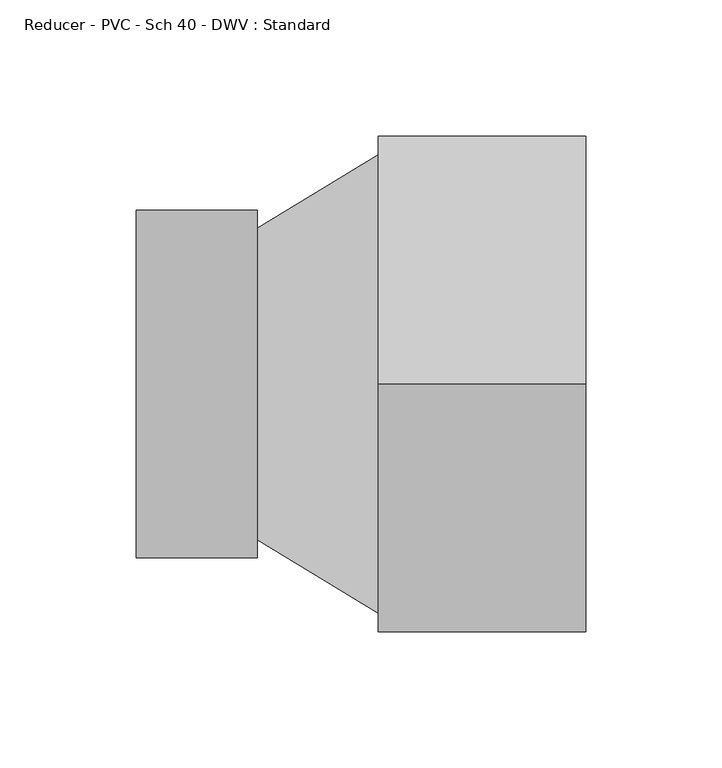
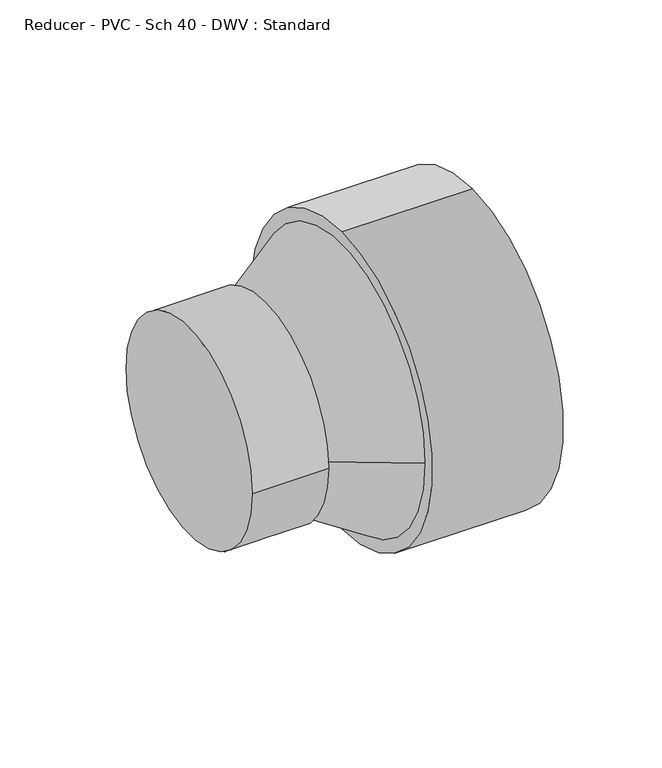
"""IFC4 building model written with IfcOpenShell, lengths in millimetres: pipe fitting geometry, Reducer - PVC - Sch 40 - DWV : Standard."""

import ifcopenshell
import ifcopenshell.guid

model = None  # the IFC model being written
_history = None  # IfcOwnerHistory: only IFC2X3 demands one
_inside = {}  # id of a spatial element -> (the spatial element, [elements in it])
_under = {}  # id of a project, library or spatial element -> (it, [spatial elements below it])
_declared = {}  # id of a project -> (the project, [libraries it declares])
_typed = {}  # id of a type object -> (the type object, [elements of that type])
_made_of = {}  # id of a material, layer set ... -> (it, [elements and type objects made of it])


def new_model(schema):
    """Start an empty IFC model of exactly this schema.

    Asked for "IFC4X3", IfcOpenShell would pick the latest addendum, in which some entities
    have other attributes; the version numbers below select the first issue.
    IFC2X3 requires an IfcOwnerHistory on every rooted entity: one is made here for all.
    """
    global model, _history
    if schema == "IFC4X3":
        model = ifcopenshell.file(schema_version=(4, 3, 0, 0))
    else:
        model = ifcopenshell.file(schema=schema)
    _inside.clear()
    _under.clear()
    _declared.clear()
    _typed.clear()
    _made_of.clear()
    _history = None
    if model.schema == "IFC2X3":
        org = make("IfcOrganization", Name="unknown")
        user = make(
            "IfcPersonAndOrganization",
            ThePerson=make("IfcPerson", FamilyName="unknown"),
            TheOrganization=org,
        )
        app = make(
            "IfcApplication",
            ApplicationDeveloper=org,
            Version="unknown",
            ApplicationFullName="unknown",
            ApplicationIdentifier="unknown",
        )
        _history = make(
            "IfcOwnerHistory",
            OwningUser=user,
            OwningApplication=app,
            ChangeAction="ADDED",
            CreationDate=0,
        )
    return model


def make(cls, **values):
    """One entity of the class cls with the attributes given. An attribute that is None is left unset."""
    return model.create_entity(
        cls, **{name: value for name, value in values.items() if value is not None}
    )


def rooted(cls, **values):
    """An entity with a GlobalId (a new one), such as an element, a storey or a relation."""
    return make(cls, GlobalId=ifcopenshell.guid.new(), OwnerHistory=_history, **values)


def si_unit(unit_type, name, prefix=None):
    """IfcSIUnit, for example si_unit("LENGTHUNIT", "METRE", prefix="MILLI")."""
    return make("IfcSIUnit", UnitType=unit_type, Prefix=prefix, Name=name)


def assignment(units):
    """IfcUnitAssignment: the units of a project."""
    return None if units is None else make("IfcUnitAssignment", Units=units)


def point(xyz):
    """IfcCartesianPoint."""
    return None if xyz is None else make("IfcCartesianPoint", Coordinates=xyz)


def direction(xyz):
    """IfcDirection."""
    return None if xyz is None else make("IfcDirection", DirectionRatios=xyz)


def frame(location, z_axis=None, x_axis=None):
    """IfcAxis2Placement3D, a coordinate frame: its origin and axes. An axis left out is left unset."""
    return make(
        "IfcAxis2Placement3D",
        Location=point(location),
        Axis=direction(z_axis),
        RefDirection=direction(x_axis),
    )


def origin():
    """The frame at (0, 0, 0) with its axes left unset."""
    return frame((0.0, 0.0, 0.0))


def place(relative_to, where):
    """IfcLocalPlacement: puts the frame where relative to a parent placement (None: the world)."""
    return make(
        "IfcLocalPlacement", PlacementRelTo=relative_to, RelativePlacement=where
    )


def context(
    kind, dimensions, precision=None, world=None, true_north=None, identifier=None
):
    """IfcGeometricRepresentationContext, for example the 3D "Model" context."""
    return make(
        "IfcGeometricRepresentationContext",
        ContextIdentifier=identifier,
        ContextType=kind,
        CoordinateSpaceDimension=dimensions,
        Precision=precision,
        WorldCoordinateSystem=world,
        TrueNorth=true_north,
    )


def project(units=None, contexts=None):
    """IfcProject with its units and contexts."""
    return rooted(
        "IfcProject",
        Name="project",
        RepresentationContexts=contexts,
        UnitsInContext=assignment(units),
    )


def spatial(cls, under=None, at=None, **own):
    """A site, building, storey or space (cls), placed at a placement, below another one or the project."""
    s = rooted(cls, ObjectPlacement=at, **own)
    if under is not None:
        _under.setdefault(under.id(), (under, []))[1].append(s)
    return s


def polyline(points):
    """IfcPolyline through the points."""
    return make("IfcPolyline", Points=[point(p) for p in points])


def circle_curve(where, radius):
    """IfcCircle in the frame where."""
    return make("IfcCircle", Position=where, Radius=radius)


def shape(context_of_items, identifier, shape_type, items):
    """IfcShapeRepresentation: the items that make up one representation, for example the "Body"."""
    return make(
        "IfcShapeRepresentation",
        ContextOfItems=context_of_items,
        RepresentationIdentifier=identifier,
        RepresentationType=shape_type,
        Items=items,
    )


def source(mapping_origin, context_of_items, identifier, shape_type, items):
    """IfcRepresentationMap: a shape defined once, which mapped items show again and again."""
    return make(
        "IfcRepresentationMap",
        MappingOrigin=mapping_origin,
        MappedRepresentation=shape(context_of_items, identifier, shape_type, items),
    )


def transform(
    local_origin,
    x_axis=None,
    y_axis=None,
    z_axis=None,
    scale=None,
    scale2=None,
    scale3=None,
    uniform=True,
):
    """IfcCartesianTransformationOperator3D, or its non-uniform kind. x_axis, y_axis, z_axis: its Axis1, 2, 3."""
    if uniform:
        return make(
            "IfcCartesianTransformationOperator3D",
            Axis1=direction(x_axis),
            Axis2=direction(y_axis),
            LocalOrigin=point(local_origin),
            Scale=scale,
            Axis3=direction(z_axis),
        )
    return make(
        "IfcCartesianTransformationOperator3DnonUniform",
        Axis1=direction(x_axis),
        Axis2=direction(y_axis),
        LocalOrigin=point(local_origin),
        Scale=scale,
        Axis3=direction(z_axis),
        Scale2=scale2,
        Scale3=scale3,
    )


def mapped(mapping_source, mapping_target):
    """IfcMappedItem: shows the shape of a source again, moved by a transform."""
    return make(
        "IfcMappedItem", MappingSource=mapping_source, MappingTarget=mapping_target
    )


def made_of(thing, what):
    """Note that an element or type object is made of a material, layer set ...; save() writes the relation."""
    if what is not None:
        _made_of.setdefault(what.id(), (what, []))[1].append(thing)
    return thing


def element(
    cls,
    number,
    at=None,
    inside=None,
    cuts=None,
    type_object=None,
    material=None,
    context=None,
    identifier="Body",
    shape_type=None,
    held_by="IfcProductDefinitionShape",
    body=None,
    shapes=None,
    **own,
):
    """One element of the class cls, such as IfcWall. Its Tag is "e" and its number.

    at: its placement. inside: the storey or other place that contains it. cuts: it is an
    opening in that element (IfcRelVoidsElement). A single representation is given by context,
    identifier, shape_type and body (its items); several are given by shapes. held_by: the class
    of the entity that holds the representations. save() writes the other relations.
    """
    e = rooted(cls, Tag="e%d" % number, ObjectPlacement=at, **own)
    if body is not None:
        shapes = [shape(context, identifier, shape_type, body)]
    if shapes is not None:
        e.Representation = make(held_by, Representations=shapes)
    if inside is not None:
        _inside.setdefault(inside.id(), (inside, []))[1].append(e)
    if cuts is not None:
        rooted(
            "IfcRelVoidsElement", RelatingBuildingElement=cuts, RelatedOpeningElement=e
        )
    if type_object is not None:
        _typed.setdefault(type_object.id(), (type_object, []))[1].append(e)
    return made_of(e, material)


def aggregate(whole, parts):
    """IfcRelAggregates: a whole, such as a stair, and the parts it consists of."""
    return rooted("IfcRelAggregates", RelatingObject=whole, RelatedObjects=parts)


def save(model, path):
    """Write the relations noted so far, then the file.

    IfcRelAggregates (storeys below a building ...), IfcRelContainedInSpatialStructure (elements
    in a storey), IfcRelDefinesByType, IfcRelAssociatesMaterial and IfcRelDeclares: one each for
    every whole, place, type object, material and project.
    """
    for whole, parts in _under.values():
        aggregate(whole, parts)
    for where, things in _inside.values():
        rooted(
            "IfcRelContainedInSpatialStructure",
            RelatedElements=things,
            RelatingStructure=where,
        )
    for kind, things in _typed.values():
        rooted("IfcRelDefinesByType", RelatedObjects=things, RelatingType=kind)
    for what, things in _made_of.values():
        rooted("IfcRelAssociatesMaterial", RelatedObjects=things, RelatingMaterial=what)
    for by, libraries in _declared.values():
        rooted("IfcRelDeclares", RelatingContext=by, RelatedDefinitions=libraries)
    model.write(path)


def plane_surface(at):
    """IfcPlane: the flat surface through the origin of the frame at, square to its z axis."""
    return make("IfcPlane", Position=at)


def cylinder_surface(at, radius):
    """IfcCylindricalSurface: all points at the distance radius from the z axis of the frame at."""
    return make("IfcCylindricalSurface", Position=at, Radius=radius)


def revolved_surface(curve, axis_point, axis_direction):
    """IfcSurfaceOfRevolution: the curve turned about the line through axis_point along axis_direction."""
    return make(
        "IfcSurfaceOfRevolution",
        SweptCurve=make("IfcArbitraryOpenProfileDef", ProfileType="CURVE", Curve=curve),
        AxisPosition=make("IfcAxis1Placement", Location=point(axis_point), Axis=direction(axis_direction)),
    )


def advanced_brep(points, edges, surfaces, faces):
    """IfcAdvancedBrep: a solid bounded by faces that lie on surfaces and meet in shared edges.

    An edge is (start, end): straight between two places in points (the first is 0);
    or (start, end, curve); or (start, end, curve, False) where it runs against its curve.
    A face is (place in surfaces, loops), or (place, loops, False) where it looks against
    its surface's normal. A loop lists edges by number (the first is 1), with a minus sign
    where the edge is run from its end to its start. The first loop is the outer one.
    """
    corners = [point(p) for p in points]
    vertices = [make("IfcVertexPoint", VertexGeometry=c) for c in corners]
    made = []
    for start, end, *more in edges:
        made.append(
            make(
                "IfcEdgeCurve",
                EdgeStart=vertices[start],
                EdgeEnd=vertices[end],
                EdgeGeometry=more[0] if more else make("IfcPolyline", Points=[corners[start], corners[end]]),
                SameSense=more[1] if len(more) > 1 else True,
            )
        )
    hull = []
    for where, loops, *sense in faces:
        bounds = []
        for j, loop in enumerate(loops):
            ring = [make("IfcOrientedEdge", EdgeElement=made[abs(k) - 1], Orientation=k > 0) for k in loop]
            bounds.append(
                make(
                    "IfcFaceOuterBound" if j == 0 else "IfcFaceBound",
                    Bound=make("IfcEdgeLoop", EdgeList=ring),
                    Orientation=True,
                )
            )
        hull.append(make("IfcAdvancedFace", Bounds=bounds, FaceSurface=surfaces[where], SameSense=sense[0] if sense else True))
    return make("IfcAdvancedBrep", Outer=make("IfcClosedShell", CfsFaces=hull))


def reducer_pvc_sch_40_dwv_standard_9e2ad0bf(model_context):
    return source(origin(), model_context, "Body", "AdvancedBrep", [
        advanced_brep(
        [(0.0, -63.754, 0.0), (0.0, 63.754, 0.0), (44.45, -63.754, 0.0), (44.45, 63.754, 0.0), (44.45, 57.15, 0.0), (44.45, -57.15, 0.0), (88.9, 84.1375, 0.0), (88.9, -84.1375, 0.0), (88.9, 0.0, 91.5543), (88.9, 0.0, -91.5543), (165.1, 0.0, 91.5543), (165.1, 0.0, -91.5543)],
        [
            (0, 1, circle_curve(frame((0.0, 0.0, 0.0), z_axis=(-1.0, 0.0, 0.0), x_axis=(0.0, 1.0, 0.0)), 63.754)),
            (1, 0, circle_curve(frame((0.0, 0.0, 0.0), z_axis=(-1.0, 0.0, 0.0), x_axis=(0.0, 1.0, 0.0)), 63.754)),
            (2, 3, circle_curve(frame((44.45, 0.0, 0.0), z_axis=(1.0, 0.0, 0.0), x_axis=(0.0, 1.0, 0.0)), 63.754)),
            (3, 2, circle_curve(frame((44.45, 0.0, 0.0), z_axis=(1.0, 0.0, 0.0), x_axis=(0.0, 1.0, 0.0)), 63.754)),
            (4, 5, circle_curve(frame((44.45, 0.0, 0.0), z_axis=(-1.0, 0.0, 0.0), x_axis=(0.0, -1.0, 0.0)), 57.15)),
            (5, 4, circle_curve(frame((44.45, 0.0, 0.0), z_axis=(-1.0, 0.0, 0.0), x_axis=(0.0, 1.0, 0.0)), 57.15)),
            (0, 2),
            (3, 1),
            (4, 6),
            (6, 7, circle_curve(frame((88.9, 0.0, 0.0), z_axis=(-1.0, 0.0, 0.0), x_axis=(0.0, -1.0, 0.0)), 84.1375)),
            (7, 5),
            (7, 6, circle_curve(frame((88.9, 0.0, 0.0), z_axis=(-1.0, 0.0, 0.0), x_axis=(0.0, 1.0, 0.0)), 84.1375)),
            (8, 9, circle_curve(frame((88.9, 0.0, 0.0), z_axis=(-1.0, 0.0, 0.0), x_axis=(0.0, 0.0, -1.0)), 91.5543)),
            (9, 8, circle_curve(frame((88.9, 0.0, 0.0), z_axis=(-1.0, 0.0, 0.0), x_axis=(0.0, 0.0, -1.0)), 91.5543)),
            (10, 11, circle_curve(frame((165.1, 0.0, 0.0), z_axis=(1.0, 0.0, 0.0), x_axis=(0.0, 0.0, -1.0)), 91.5543)),
            (11, 10, circle_curve(frame((165.1, 0.0, 0.0), z_axis=(1.0, 0.0, 0.0), x_axis=(0.0, 0.0, -1.0)), 91.5543)),
            (8, 10),
            (11, 9),
        ],
        [
            plane_surface(frame((0.0, 0.0, 0.0), z_axis=(-1.0, 0.0, 0.0), x_axis=(0.0, 0.0, 1.0))),
            plane_surface(frame((44.45, 0.0, 0.0), z_axis=(1.0, 0.0, 0.0), x_axis=(0.0, 0.0, 1.0))),
            cylinder_surface(frame((0.0, 0.0, 0.0), z_axis=(-1.0, 0.0, 0.0), x_axis=(0.0, 1.0, 0.0)), 63.754),
            revolved_surface(polyline([(44.45000000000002, 57.15000000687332, 0.0), (88.9, 84.1375, 0.0)]), (-49.6794118, 0.0, 0.0), (1.0, 0.0, 0.0)),
            plane_surface(frame((88.9, 0.0, 0.0), z_axis=(-1.0, 0.0, 0.0), x_axis=(0.0, 1.0, 0.0))),
            plane_surface(frame((165.1, 0.0, 0.0), z_axis=(1.0, 0.0, 0.0), x_axis=(0.0, 1.0, 0.0))),
            cylinder_surface(frame((88.9, 0.0, 0.0), z_axis=(-1.0, 0.0, 0.0), x_axis=(0.0, 0.0, -1.0)), 91.5543),
        ],
        [
            (0, [[1, 2]]),
            (1, [[3, 4], [5, 6]]),
            (2, [[-1, 7, -4, 8]]),
            (2, [[-2, -8, -3, -7]]),
            (3, [[9, 10, 11, -5]]),
            (3, [[-9, -6, -11, 12]]),
            (4, [[13, 14], [-10, -12]]),
            (5, [[15, 16]]),
            (6, [[-13, 17, -16, 18]]),
            (6, [[-14, -18, -15, -17]]),
        ],
    ),
    ])


if __name__ == "__main__":
    model = new_model("IFC4")
    model_context = context("Model", 3, world=origin())
    ifc_project = project(units=[si_unit("LENGTHUNIT", "METRE", prefix="MILLI")], contexts=[model_context])
    site = spatial("IfcSite", under=ifc_project)
    building = spatial("IfcBuilding", under=site)
    placement = place(None, origin())
    reducer_pvc_sch_40_dwv_standard_shape = reducer_pvc_sch_40_dwv_standard_9e2ad0bf(model_context)
    element("IfcPipeFitting", 1, ObjectType="Reducer - PVC - Sch 40 - DWV : Standard", at=placement, inside=building, context=model_context, shape_type="MappedRepresentation", body=[
        mapped(reducer_pvc_sch_40_dwv_standard_shape, transform((0.0, 0.0, 0.0), x_axis=(1.0, 0.0, 0.0), y_axis=(0.0, 1.0, 0.0), z_axis=(0.0, 0.0, 1.0))),
    ])
    save(model, "model.ifc")
